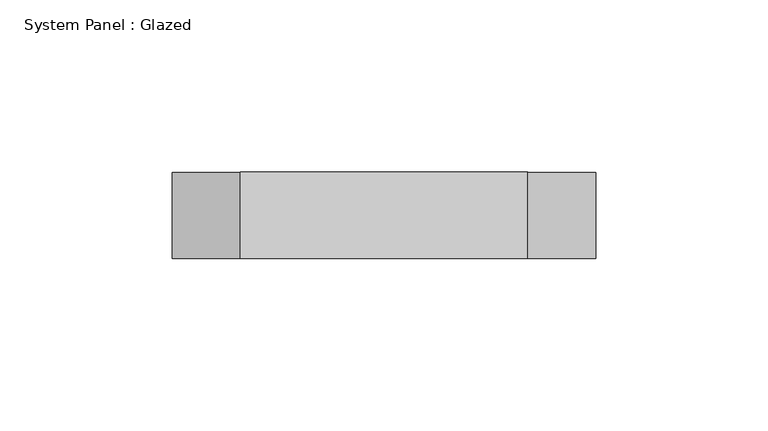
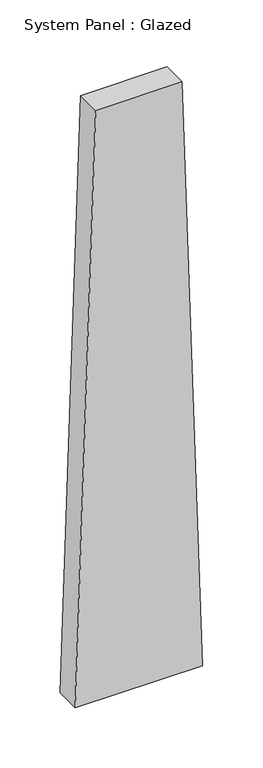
"""IFC4 building model written with IfcOpenShell, lengths in millimetres: plate geometry, System Panel : Glazed."""

from ifc_helpers import new_model, si_unit, frame, origin, place, context, project, spatial, polyline, outline, extrude, source, transform, mapped, element, save


def system_panel_glazed_a5a4bec3(model_context):
    return source(origin(), model_context, "Body", "SweptSolid", [
        extrude(outline(polyline([(0.0, -61.3597378), (0.0, 61.3597378), (599.6777544, 41.6978231), (599.6777544, -41.6978231), (0.0, -61.3597378)])), frame((0.0, 24.5, 0.0), z_axis=(0.0, 1.0, 0.0), x_axis=(0.0, 0.0, 1.0)), (0.0, 0.0, 1.0), 25.0),
    ])


if __name__ == "__main__":
    model = new_model("IFC4")
    model_context = context("Model", 3, world=origin())
    ifc_project = project(units=[si_unit("LENGTHUNIT", "METRE", prefix="MILLI")], contexts=[model_context])
    site = spatial("IfcSite", under=ifc_project)
    building = spatial("IfcBuilding", under=site)
    placement = place(None, origin())
    system_panel_glazed_shape = system_panel_glazed_a5a4bec3(model_context)
    element("IfcPlate", 1, ObjectType="System Panel : Glazed", at=placement, inside=building, context=model_context, shape_type="MappedRepresentation", body=[
        mapped(system_panel_glazed_shape, transform((0.0, 0.0, 0.0), x_axis=(1.0, 0.0, 0.0), y_axis=(0.0, 1.0, 0.0), z_axis=(0.0, 0.0, 1.0))),
    ])
    save(model, "model.ifc")
